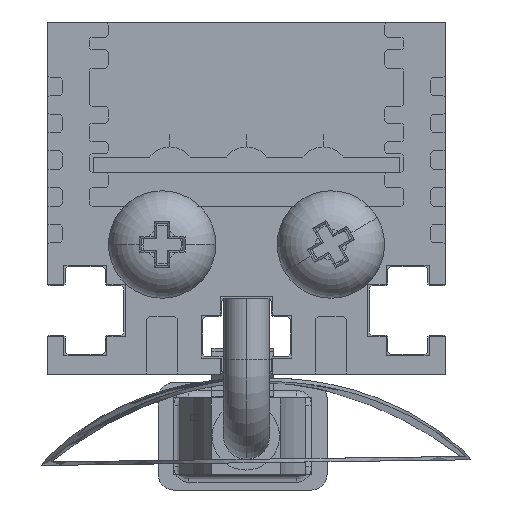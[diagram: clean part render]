
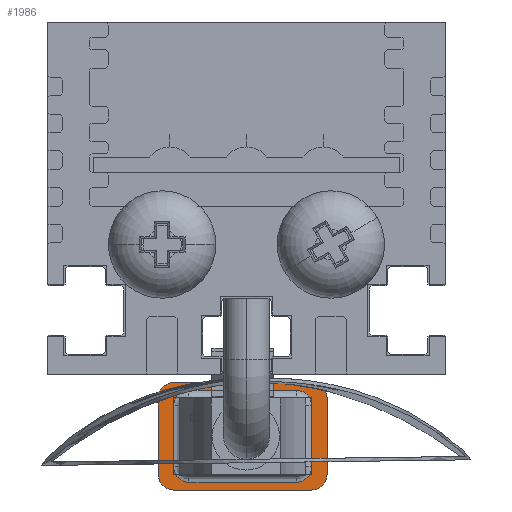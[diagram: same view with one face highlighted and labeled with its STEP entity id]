
A CAD part, left-side view. The second image highlights one B-rep face of the part: STEP entity #1986.
In plain terms, the highlighted planar face has unit normal (-1, 0, 0).
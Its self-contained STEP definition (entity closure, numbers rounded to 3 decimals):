
#1986=ADVANCED_FACE('NONE',(#4111,#4112),#4113,.F.);
#4111=FACE_OUTER_BOUND('',#6696,.T.);
#4112=FACE_BOUND('',#6697,.T.);
#4113=PLANE('',#6698);
#6696=EDGE_LOOP('',(#12321,#12322,#12323,#12324,#12325,#12326,#12327,#12328,#12329,#12330,#12331,#12332));
#6697=EDGE_LOOP('',(#12333,#12334,#12335,#12336,#12337,#12338,#12339,#12340));
#6698=AXIS2_PLACEMENT_3D('',#12341,#12342,#12343);
#12321=ORIENTED_EDGE('',*,*,#17591,.T.);
#12322=ORIENTED_EDGE('',*,*,#17393,.T.);
#12323=ORIENTED_EDGE('',*,*,#17599,.F.);
#12324=ORIENTED_EDGE('',*,*,#17388,.T.);
#12325=ORIENTED_EDGE('',*,*,#17612,.F.);
#12326=ORIENTED_EDGE('',*,*,#17435,.T.);
#12327=ORIENTED_EDGE('',*,*,#17610,.F.);
#12328=ORIENTED_EDGE('',*,*,#17444,.F.);
#12329=ORIENTED_EDGE('',*,*,#17594,.F.);
#12330=ORIENTED_EDGE('',*,*,#17385,.T.);
#12331=ORIENTED_EDGE('',*,*,#17602,.T.);
#12332=ORIENTED_EDGE('',*,*,#17380,.T.);
#12333=ORIENTED_EDGE('',*,*,#17409,.F.);
#12334=ORIENTED_EDGE('',*,*,#17399,.T.);
#12335=ORIENTED_EDGE('',*,*,#17412,.F.);
#12336=ORIENTED_EDGE('',*,*,#17420,.T.);
#12337=ORIENTED_EDGE('',*,*,#17428,.F.);
#12338=ORIENTED_EDGE('',*,*,#17431,.T.);
#12339=ORIENTED_EDGE('',*,*,#17425,.F.);
#12340=ORIENTED_EDGE('',*,*,#17417,.T.);
#12341=CARTESIAN_POINT('',(11.0,9.5,3.5));
#12342=DIRECTION('',(1.0,0.0,0.0));
#12343=DIRECTION('',(0.0,1.0,0.0));
#17380=EDGE_CURVE('NONE',#21437,#21435,#21438,.T.);
#17385=EDGE_CURVE('NONE',#21446,#21444,#21447,.T.);
#17388=EDGE_CURVE('NONE',#21450,#21451,#21452,.T.);
#17393=EDGE_CURVE('NONE',#21459,#21460,#21461,.T.);
#17399=EDGE_CURVE('NONE',#21471,#21469,#21472,.T.);
#17409=EDGE_CURVE('NONE',#21471,#21485,#21489,.T.);
#17412=EDGE_CURVE('NONE',#21492,#21469,#21494,.T.);
#17417=EDGE_CURVE('NONE',#21497,#21485,#21501,.T.);
#17420=EDGE_CURVE('NONE',#21492,#21504,#21506,.T.);
#17425=EDGE_CURVE('NONE',#21497,#21509,#21513,.T.);
#17428=EDGE_CURVE('NONE',#21516,#21504,#21518,.T.);
#17431=EDGE_CURVE('NONE',#21516,#21509,#21521,.T.);
#17435=EDGE_CURVE('NONE',#21527,#21524,#21528,.T.);
#17444=EDGE_CURVE('NONE',#21542,#21535,#21544,.T.);
#17591=EDGE_CURVE('NONE',#21435,#21459,#21781,.T.);
#17594=EDGE_CURVE('NONE',#21446,#21542,#21784,.T.);
#17599=EDGE_CURVE('NONE',#21450,#21460,#21789,.T.);
#17602=EDGE_CURVE('NONE',#21444,#21437,#21792,.T.);
#17610=EDGE_CURVE('NONE',#21535,#21524,#21800,.T.);
#17612=EDGE_CURVE('NONE',#21527,#21451,#21802,.T.);
#21435=VERTEX_POINT('NONE',#27585);
#21437=VERTEX_POINT('NONE',#27588);
#21438=CIRCLE('',#27589,1.0);
#21444=VERTEX_POINT('NONE',#27596);
#21446=VERTEX_POINT('NONE',#27599);
#21447=CIRCLE('',#27600,1.0);
#21450=VERTEX_POINT('NONE',#27604);
#21451=VERTEX_POINT('NONE',#27605);
#21452=CIRCLE('',#27606,1.0);
#21459=VERTEX_POINT('NONE',#27615);
#21460=VERTEX_POINT('NONE',#27616);
#21461=CIRCLE('',#27617,1.0);
#21469=VERTEX_POINT('NONE',#27627);
#21471=VERTEX_POINT('NONE',#27629);
#21472=LINE('',#27630,#27631);
#21485=VERTEX_POINT('NONE',#27647);
#21489=CIRCLE('',#27651,1.0);
#21492=VERTEX_POINT('NONE',#27654);
#21494=CIRCLE('',#27656,1.0);
#21497=VERTEX_POINT('NONE',#27659);
#21501=LINE('',#27664,#27665);
#21504=VERTEX_POINT('NONE',#27668);
#21506=LINE('',#27670,#27671);
#21509=VERTEX_POINT('NONE',#27675);
#21513=CIRCLE('',#27679,1.0);
#21516=VERTEX_POINT('NONE',#27682);
#21518=CIRCLE('',#27684,1.0);
#21521=LINE('',#27687,#27688);
#21524=VERTEX_POINT('NONE',#27692);
#21527=VERTEX_POINT('NONE',#27696);
#21528=LINE('',#27697,#27698);
#21535=VERTEX_POINT('NONE',#27708);
#21542=VERTEX_POINT('NONE',#27718);
#21544=LINE('',#27721,#27722);
#21781=LINE('',#28080,#28081);
#21784=LINE('',#28085,#28086);
#21789=LINE('',#28093,#28094);
#21792=LINE('',#28098,#28099);
#21800=LINE('',#28110,#28111);
#21802=LINE('',#28113,#28114);
#27585=CARTESIAN_POINT('',(11.0,8.5,-3.5));
#27588=CARTESIAN_POINT('',(11.0,9.5,-2.5));
#27589=AXIS2_PLACEMENT_3D('',#36101,#36102,#36103);
#27596=CARTESIAN_POINT('',(11.0,9.5,2.5));
#27599=CARTESIAN_POINT('',(11.0,8.5,3.5));
#27600=AXIS2_PLACEMENT_3D('',#36109,#36110,#36111);
#27604=CARTESIAN_POINT('',(11.0,-1.5,2.5));
#27605=CARTESIAN_POINT('',(11.0,-0.5,3.5));
#27606=AXIS2_PLACEMENT_3D('',#36113,#36114,#36115);
#27615=CARTESIAN_POINT('',(11.0,-0.5,-3.5));
#27616=CARTESIAN_POINT('',(11.0,-1.5,-2.5));
#27617=AXIS2_PLACEMENT_3D('',#36121,#36122,#36123);
#27627=CARTESIAN_POINT('',(11.0,0.5,3.0));
#27629=CARTESIAN_POINT('',(11.0,7.5,3.0));
#27630=CARTESIAN_POINT('',(11.0,9.5,3.0));
#27631=VECTOR('',#36132,1000.0);
#27647=CARTESIAN_POINT('',(11.0,8.5,2.0));
#27651=AXIS2_PLACEMENT_3D('',#36151,#36152,#36153);
#27654=CARTESIAN_POINT('',(11.0,-0.5,2.0));
#27656=AXIS2_PLACEMENT_3D('',#36157,#36158,#36159);
#27659=CARTESIAN_POINT('',(11.0,8.5,-2.0));
#27664=CARTESIAN_POINT('',(11.0,8.5,2.5));
#27665=VECTOR('',#36167,1000.0);
#27668=CARTESIAN_POINT('',(11.0,-0.5,-2.0));
#27670=CARTESIAN_POINT('',(11.0,-0.5,-2.5));
#27671=VECTOR('',#36171,1000.0);
#27675=CARTESIAN_POINT('',(11.0,7.5,-3.0));
#27679=AXIS2_PLACEMENT_3D('',#36179,#36180,#36181);
#27682=CARTESIAN_POINT('',(11.0,0.5,-3.0));
#27684=AXIS2_PLACEMENT_3D('',#36185,#36186,#36187);
#27687=CARTESIAN_POINT('',(11.0,8.0,-3.0));
#27688=VECTOR('',#36191,1000.0);
#27692=CARTESIAN_POINT('',(11.0,3.0,4.0));
#27696=CARTESIAN_POINT('',(11.0,3.0,3.5));
#27697=CARTESIAN_POINT('',(11.0,3.0,4.0));
#27698=VECTOR('',#36194,1000.0);
#27708=CARTESIAN_POINT('',(11.0,5.0,4.0));
#27718=CARTESIAN_POINT('',(11.0,5.0,3.5));
#27721=CARTESIAN_POINT('',(11.0,5.0,4.0));
#27722=VECTOR('',#36202,1000.0);
#28080=CARTESIAN_POINT('',(11.0,9.5,-3.5));
#28081=VECTOR('',#36324,1000.0);
#28085=CARTESIAN_POINT('',(11.0,9.5,3.5));
#28086=VECTOR('',#36326,1000.0);
#28093=CARTESIAN_POINT('',(11.0,-1.5,3.5));
#28094=VECTOR('',#36329,1000.0);
#28098=CARTESIAN_POINT('',(11.0,9.5,3.5));
#28099=VECTOR('',#36331,1000.0);
#28110=CARTESIAN_POINT('',(11.0,5.0,4.0));
#28111=VECTOR('',#36335,1000.0);
#28113=CARTESIAN_POINT('',(11.0,9.5,3.5));
#28114=VECTOR('',#36336,1000.0);
#36101=CARTESIAN_POINT('',(11.0,8.5,-2.5));
#36102=DIRECTION('',(-1.0,0.0,0.0));
#36103=DIRECTION('',(0.0,0.0,-1.0));
#36109=CARTESIAN_POINT('',(11.0,8.5,2.5));
#36110=DIRECTION('',(-1.0,0.0,0.0));
#36111=DIRECTION('',(0.0,0.0,-1.0));
#36113=CARTESIAN_POINT('',(11.0,-0.5,2.5));
#36114=DIRECTION('',(-1.0,0.0,0.0));
#36115=DIRECTION('',(0.0,0.0,-1.0));
#36121=CARTESIAN_POINT('',(11.0,-0.5,-2.5));
#36122=DIRECTION('',(-1.0,0.0,0.0));
#36123=DIRECTION('',(0.0,0.0,-1.0));
#36132=DIRECTION('',(0.0,-1.0,0.0));
#36151=CARTESIAN_POINT('',(11.0,7.5,2.0));
#36152=DIRECTION('',(-1.0,0.0,0.0));
#36153=DIRECTION('',(0.0,0.0,-1.0));
#36157=CARTESIAN_POINT('',(11.0,0.5,2.0));
#36158=DIRECTION('',(-1.0,0.0,0.0));
#36159=DIRECTION('',(0.0,0.0,-1.0));
#36167=DIRECTION('',(0.0,0.0,1.0));
#36171=DIRECTION('',(0.0,0.0,-1.0));
#36179=CARTESIAN_POINT('',(11.0,7.5,-2.0));
#36180=DIRECTION('',(-1.0,0.0,0.0));
#36181=DIRECTION('',(0.0,0.0,-1.0));
#36185=CARTESIAN_POINT('',(11.0,0.5,-2.0));
#36186=DIRECTION('',(-1.0,0.0,0.0));
#36187=DIRECTION('',(0.0,0.0,-1.0));
#36191=DIRECTION('',(0.0,1.0,0.0));
#36194=DIRECTION('',(0.0,0.0,1.0));
#36202=DIRECTION('',(0.0,0.0,1.0));
#36324=DIRECTION('',(0.0,-1.0,0.0));
#36326=DIRECTION('',(0.0,-1.0,0.0));
#36329=DIRECTION('',(0.0,0.0,-1.0));
#36331=DIRECTION('',(0.0,0.0,-1.0));
#36335=DIRECTION('',(0.0,-1.0,0.0));
#36336=DIRECTION('',(0.0,-1.0,0.0));
